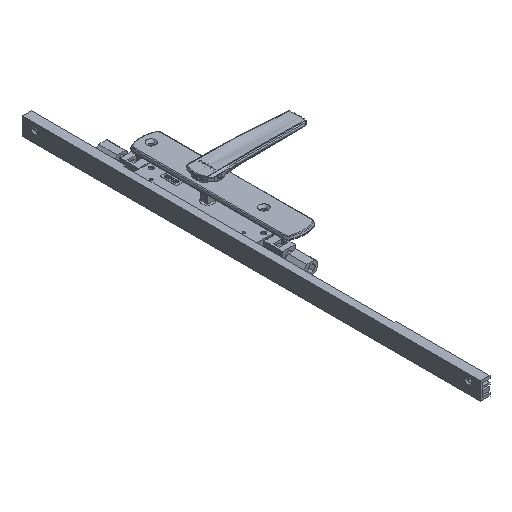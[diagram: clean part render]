
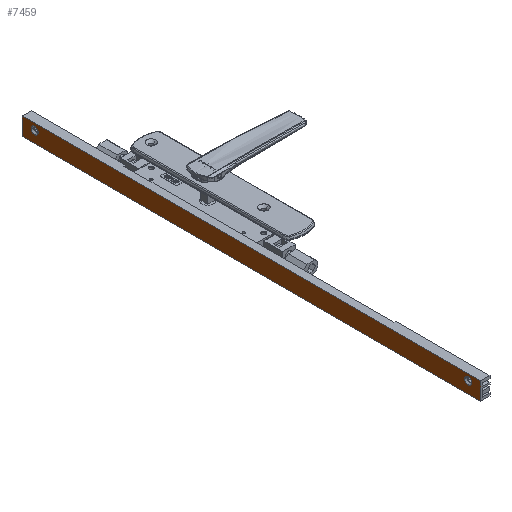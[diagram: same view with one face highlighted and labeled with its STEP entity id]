
A CAD part, isometric view. The second image highlights one B-rep face of the part: STEP entity #7459.
In plain terms, the highlighted planar face has unit normal (-1, 0, 0) as drawn and (0, 1, 0) by its records, which use the part's own axes.
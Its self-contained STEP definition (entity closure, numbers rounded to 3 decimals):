
#42 = ORIENTED_EDGE ( 'NONE', *, *, #12894, .F. ) ;
#182 = CARTESIAN_POINT ( 'NONE',  ( 11.8, 12.4, 15. ) ) ;
#371 = EDGE_CURVE ( 'NONE', #8106, #15297, #11354, .T. ) ;
#478 = VERTEX_POINT ( 'NONE', #1706 ) ;
#990 = EDGE_CURVE ( 'NONE', #18392, #478, #6167, .T. ) ;
#1706 = CARTESIAN_POINT ( 'NONE',  ( 11.8, 12.4, 19.216 ) ) ;
#1964 = VERTEX_POINT ( 'NONE', #8189 ) ;
#2683 = DIRECTION ( 'NONE',  ( 0., 0., -1. ) ) ;
#2798 = DIRECTION ( 'NONE',  ( 0., 1., 0. ) ) ;
#3739 = AXIS2_PLACEMENT_3D ( 'NONE', #19926, #29465, #22263 ) ;
#4747 = DIRECTION ( 'NONE',  ( 0., -1., 0. ) ) ;
#5025 = DIRECTION ( 'NONE',  ( 0., 1., 0. ) ) ;
#5359 = CARTESIAN_POINT ( 'NONE',  ( -1.7, 12.4, 544. ) ) ;
#5508 = ORIENTED_EDGE ( 'NONE', *, *, #19883, .F. ) ;
#5860 = VECTOR ( 'NONE', #2683, 1000. ) ;
#6167 = CIRCLE ( 'NONE', #27705, 4.216 ) ;
#7459 = ADVANCED_FACE ( 'NONE', ( #9631, #19383, #9465 ), #11985, .F. ) ;
#7643 = EDGE_CURVE ( 'NONE', #8106, #16034, #16486, .T. ) ;
#7781 = CIRCLE ( 'NONE', #29308, 4.216 ) ;
#8106 = VERTEX_POINT ( 'NONE', #13046 ) ;
#8118 = VECTOR ( 'NONE', #11406, 1000. ) ;
#8189 = CARTESIAN_POINT ( 'NONE',  ( 11.8, 12.4, 524.784 ) ) ;
#8318 = ORIENTED_EDGE ( 'NONE', *, *, #7643, .T. ) ;
#8394 = CARTESIAN_POINT ( 'NONE',  ( 11.8, 12.4, 533.216 ) ) ;
#8862 = AXIS2_PLACEMENT_3D ( 'NONE', #10661, #29777, #13021 ) ;
#9465 = FACE_OUTER_BOUND ( 'NONE', #10896, .T. ) ;
#9631 = FACE_BOUND ( 'NONE', #9658, .T. ) ;
#9658 = EDGE_LOOP ( 'NONE', ( #5508, #17947 ) ) ;
#9695 = LINE ( 'NONE', #28479, #28714 ) ;
#10661 = CARTESIAN_POINT ( 'NONE',  ( 11.8, 12.4, 529. ) ) ;
#10896 = EDGE_LOOP ( 'NONE', ( #17831, #8318, #27184, #22557 ) ) ;
#11354 = LINE ( 'NONE', #27658, #16206 ) ;
#11406 = DIRECTION ( 'NONE',  ( -1., 0., 0. ) ) ;
#11985 = PLANE ( 'NONE',  #12881 ) ;
#12039 = DIRECTION ( 'NONE',  ( 0., 0., -1. ) ) ;
#12135 = CARTESIAN_POINT ( 'NONE',  ( 20.8, 12.4, 544. ) ) ;
#12881 = AXIS2_PLACEMENT_3D ( 'NONE', #12135, #4747, #21709 ) ;
#12894 = EDGE_CURVE ( 'NONE', #28880, #1964, #30766, .T. ) ;
#12936 = VERTEX_POINT ( 'NONE', #15060 ) ;
#13021 = DIRECTION ( 'NONE',  ( 0., 0., 1. ) ) ;
#13046 = CARTESIAN_POINT ( 'NONE',  ( 19.3, 12.4, 544. ) ) ;
#14399 = CIRCLE ( 'NONE', #8862, 4.216 ) ;
#15060 = CARTESIAN_POINT ( 'NONE',  ( -1.7, 12.4, 0. ) ) ;
#15297 = VERTEX_POINT ( 'NONE', #5359 ) ;
#15504 = LINE ( 'NONE', #18011, #8118 ) ;
#15657 = EDGE_LOOP ( 'NONE', ( #42, #27086 ) ) ;
#16034 = VERTEX_POINT ( 'NONE', #28603 ) ;
#16206 = VECTOR ( 'NONE', #30309, 1000. ) ;
#16486 = LINE ( 'NONE', #19779, #5860 ) ;
#17165 = CARTESIAN_POINT ( 'NONE',  ( 11.8, 12.4, 10.784 ) ) ;
#17831 = ORIENTED_EDGE ( 'NONE', *, *, #371, .F. ) ;
#17947 = ORIENTED_EDGE ( 'NONE', *, *, #990, .F. ) ;
#18011 = CARTESIAN_POINT ( 'NONE',  ( 20.8, 12.4, 0. ) ) ;
#18325 = EDGE_CURVE ( 'NONE', #1964, #28880, #14399, .T. ) ;
#18392 = VERTEX_POINT ( 'NONE', #17165 ) ;
#19100 = CARTESIAN_POINT ( 'NONE',  ( 11.8, 12.4, 15. ) ) ;
#19383 = FACE_BOUND ( 'NONE', #15657, .T. ) ;
#19577 = DIRECTION ( 'NONE',  ( 0., 0., 1. ) ) ;
#19779 = CARTESIAN_POINT ( 'NONE',  ( 19.3, 12.4, 544. ) ) ;
#19883 = EDGE_CURVE ( 'NONE', #478, #18392, #7781, .T. ) ;
#19926 = CARTESIAN_POINT ( 'NONE',  ( 11.8, 12.4, 529. ) ) ;
#21347 = DIRECTION ( 'NONE',  ( 0., 0., 1. ) ) ;
#21709 = DIRECTION ( 'NONE',  ( 1., 0., 0. ) ) ;
#22263 = DIRECTION ( 'NONE',  ( 0., 0., 1. ) ) ;
#22557 = ORIENTED_EDGE ( 'NONE', *, *, #22782, .F. ) ;
#22782 = EDGE_CURVE ( 'NONE', #15297, #12936, #9695, .T. ) ;
#27086 = ORIENTED_EDGE ( 'NONE', *, *, #18325, .F. ) ;
#27184 = ORIENTED_EDGE ( 'NONE', *, *, #30498, .T. ) ;
#27658 = CARTESIAN_POINT ( 'NONE',  ( 20.8, 12.4, 544. ) ) ;
#27705 = AXIS2_PLACEMENT_3D ( 'NONE', #182, #5025, #21347 ) ;
#28479 = CARTESIAN_POINT ( 'NONE',  ( -1.7, 12.4, 544. ) ) ;
#28603 = CARTESIAN_POINT ( 'NONE',  ( 19.3, 12.4, 0. ) ) ;
#28714 = VECTOR ( 'NONE', #12039, 1000. ) ;
#28880 = VERTEX_POINT ( 'NONE', #8394 ) ;
#29308 = AXIS2_PLACEMENT_3D ( 'NONE', #19100, #2798, #19577 ) ;
#29465 = DIRECTION ( 'NONE',  ( 0., 1., 0. ) ) ;
#29777 = DIRECTION ( 'NONE',  ( 0., 1., 0. ) ) ;
#30309 = DIRECTION ( 'NONE',  ( -1., 0., 0. ) ) ;
#30498 = EDGE_CURVE ( 'NONE', #16034, #12936, #15504, .T. ) ;
#30766 = CIRCLE ( 'NONE', #3739, 4.216 ) ;
